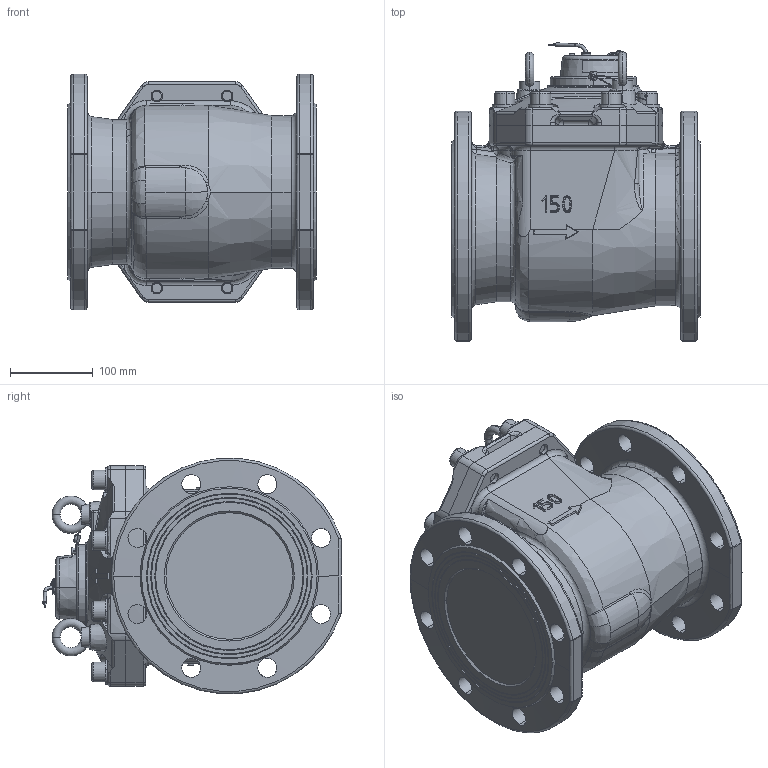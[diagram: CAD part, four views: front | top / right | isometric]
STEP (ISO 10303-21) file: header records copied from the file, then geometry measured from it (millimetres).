
FILE_DESCRIPTION (( 'STEP AP214' ), '1' );
FILE_NAME ('MWN130-300-NC.STEP', '2025-08-01T10:51:42', ( '' ), ( '' ), 'SwSTEP 2.0', 'SolidWorks 2019', '' );
FILE_SCHEMA (( 'AUTOMOTIVE_DESIGN' ));
Length unit declared in the file: millimetre
Products named in the file (1): MWN130-300-NC
Bounding box: 300 x 360.08 x 284.04 mm (x, y, z)
Volume: 13992811.6 mm3; surface area: 1234269.6 mm2
Topology: 41 solids, 54 shells, 2044 faces, 5247 edges, 3285 vertices
Faces by surface type: plane 663, cylinder 607, bspline 364, cone 242, torus 126, sphere 42
Entity records: 143551 total; most frequent: CARTESIAN_POINT 75874, ORIENTED_EDGE 10300, DIRECTION 8796, EDGE_CURVE 5150, AXIS2_PLACEMENT_3D 3441, VERTEX_POINT 3278, EDGE_LOOP 2248, FACE_OUTER_BOUND 2044
